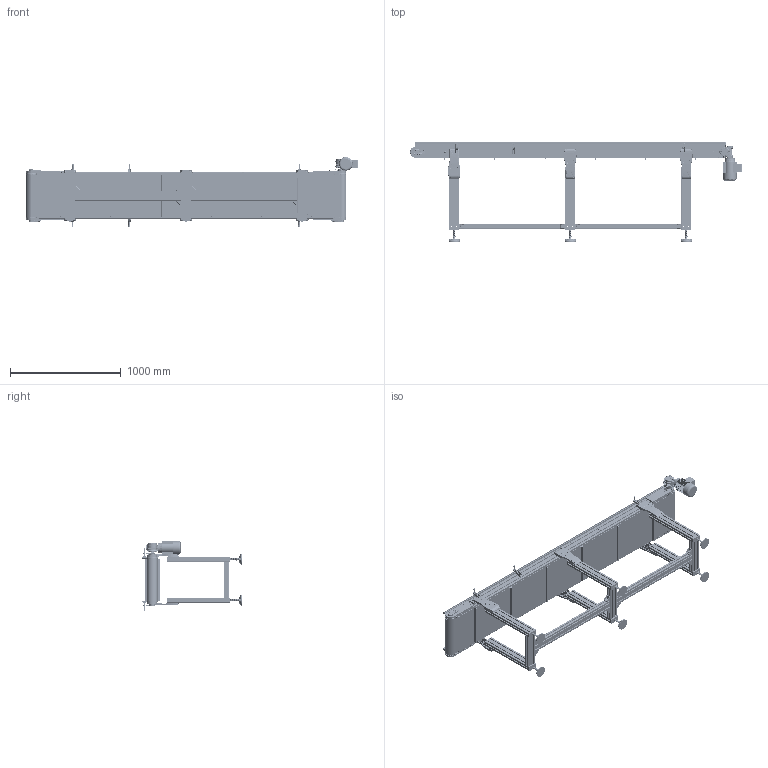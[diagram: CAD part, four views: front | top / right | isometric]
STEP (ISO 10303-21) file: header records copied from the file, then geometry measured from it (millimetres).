
FILE_DESCRIPTION (( 'STEP AP203' ), '1' );
FILE_NAME ('NASTRO_RETTILINEO_TAPPETO.step', '2026-06-06T00:28:44', ( 'Utente Windows' ), ( '' ), 'SwSTEP 2.0', 'SolidWorks 2024', '' );
FILE_SCHEMA (( 'CONFIG_CONTROL_DESIGN' ));
Length unit declared in the file: millimetre
Products named in the file (72): RULLO_95_Default<A macchina>; 084.712.002; TRAVERSA_95_Default<A macchina>; BLOCCO_PERNO_95_44; 084.711.007; 2010.000.072_L_Default<A macchina>; 084.302.060; 084.405.001; 084.301.000 VITI ALUSIC1_084.301.003; BLOCCO_TRAINO_95_STANDARD_44_DX_dx; FLANGIA_GAMBA_95_CON GIUNTI; NASTRO_RETTILINEO_TAPPETO; 084.711.006_L2; VITI TE UNI 5739_M6x16 UNI 5739; 084.302.000 DADI ALUSIC 13x13-1_084.302.007; 084.808.002_084.808.002; 084.402.005; VITI TE UNI 5739_M6x12 UNI 5739; 2010.000.074; 084.808.012; 0820ISO2342; VITE_RONDELLA_M8X20; LAMIERA_STANDARD; BLOCCO_PERNO_95_RINVIO; VITI TSEI UNI 5933_M4x12 UNI 5933; 084.812.001; VITI TCEI UNI 5931_M6x12 UNI 5931; BLOCCO_TRAINO_95_STANDARD_CON TENDINASTRO E CARTER; 30UNI7435; 084.301.000 VITI ALUSIC_084.301.003; CH04P_DX; 084.302.000 DADI ALUSIC 13x13-1_084.302.004; 084.802.034_084.802.034; RONDELLE FASCIA LARGA UNI 6593_6.4x24 UNI 6593; 084.711.005; 084.802.062; 084.808.003_084.808.003; 2010.000.072; 084.802.068; 084.201.019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
Assembly tree (232 placements, depth 4):
  NASTRO_RETTILINEO_TAPPETO
    TAPPETO_STANDARD
    TELAIO_95_STANDARD_Default<A macchina>
    LAMIERA_STANDARD  x2
    RULLO_95_Default<A macchina>  x2
    BLOCCO_PERNO_95_44
      084.812.001
      084.810.003
      CHIAVETTE_A 6x6x60 UNI 6604-69
      CHIAVETTE_A 8x7x20 UNI 6604-69
      RONDELLE FASCIA LARGA UNI 6593_6.4x24 UNI 6593
      VITI TE UNI 5739_M6x12 UNI 5739
      30UNI7435
    BLOCCO_TRAINO_95_STANDARD_44_DX_dx
      084.808.003_084.808.003
      084.302.060  x2
      084.802.034_084.802.034
      084.301.000 VITI ALUSIC_084.301.003  x6
      VITI TCEI UNI 5931_M4x25 UNI 5931  x2
      084.802.067_Default<A macchina>
      BLOCCO_BRACCIO_CH04P_V2_VF44P V2
        084.808.012
        084.802.062
        0820ISO2342
        084.803.018
        VITI TCEI UNI 5931_M6x12 UNI 5931  x4
        VITI TE UNI 5739_M6x16 UNI 5739  x4
        084.802.060_Default<A macchina>
    BLOCCO_PERNO_95_RINVIO  x3
      084.812.003
      084.810.003
      30UNI7435
    BLOCCO_TRAINO_95_STANDARD_CON TENDINASTRO E CARTER
      084.808.002_084.808.002
      084.302.060  x2
      084.802.019_084.802.019
      084.301.000 VITI ALUSIC_084.301.003  x6
      VITI TCEI UNI 5931_M4x25 UNI 5931  x2
      084.802.071
      084.802.068
      VITI TSEI UNI 5933_M4x12 UNI 5933  x2
    BLOCCO_RINVIO_95_STANDARD_CON TENDINASTRO E CARTER  x2
      084.808.002_084.808.002
      084.803.003
      084.302.060
      084.802.019_084.802.019
      VITI TSEI UNI 5933_M4x12 UNI 5933
      084.302.000 DADI ALUSIC 13x13-1_084.302.004
      084.301.000 VITI ALUSIC_084.301.003
      084.802.071
    SPONDA_Default<A macchina>  x2
    084.711.006_PER CAVA 8 PERNO ALTO 1  x6
      084.711.006_L1
      084.711.006_L2
      084.711.007
      084.711.005
      084.711.010
      DADI ESAGONALI NORMALI UNI 5588_M6 UNI 5588
    084.712.002  x4
    GAMBE_D95_Default<A macchina>  x3
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Bounding box: 3004.1 x 900.5 x 632.43 mm (x, y, z)
Volume: 33628665.9 mm3; surface area: 23197975.6 mm2
Topology: 502 solids, 511 shells, 24046 faces, 62081 edges, 39394 vertices
Faces by surface type: plane 10174, cylinder 6945, bspline 2797, cone 2103, torus 1763, sphere 264
Entity records: 284820 total; most frequent: CARTESIAN_POINT 104957, ORIENTED_EDGE 36970, DIRECTION 32834, EDGE_CURVE 18485, VERTEX_POINT 11887, AXIS2_PLACEMENT_3D 11225, LINE 10384, VECTOR 10384
